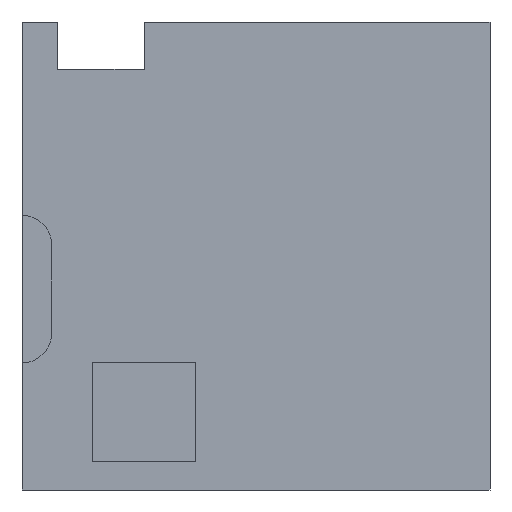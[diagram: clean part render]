
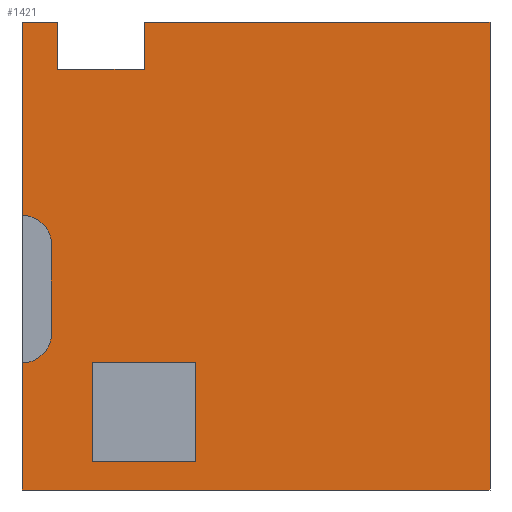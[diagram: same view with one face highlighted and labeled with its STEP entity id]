
A CAD part, front view. The second image highlights one B-rep face of the part: STEP entity #1421.
In plain terms, the highlighted planar face has unit normal (0, -1, 0).
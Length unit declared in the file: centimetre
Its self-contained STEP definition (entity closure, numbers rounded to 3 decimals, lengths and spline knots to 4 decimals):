
#26 = LINE ( 'NONE', #1070, #866 ) ;
#29 = VECTOR ( 'NONE', #1212, 100. ) ;
#57 = CARTESIAN_POINT ( 'NONE',  ( 75.865, 0., 1000. ) ) ;
#77 = VERTEX_POINT ( 'NONE', #717 ) ;
#101 = ORIENTED_EDGE ( 'NONE', *, *, #1707, .T. ) ;
#112 = ORIENTED_EDGE ( 'NONE', *, *, #857, .T. ) ;
#131 = VECTOR ( 'NONE', #1090, 100. ) ;
#143 = ORIENTED_EDGE ( 'NONE', *, *, #628, .T. ) ;
#152 = CARTESIAN_POINT ( 'NONE',  ( 0., 0., 1000. ) ) ;
#171 = CARTESIAN_POINT ( 'NONE',  ( 0., 0., 1000. ) ) ;
#177 = DIRECTION ( 'NONE',  ( 1., 0., 0. ) ) ;
#178 = LINE ( 'NONE', #571, #131 ) ;
#179 = VECTOR ( 'NONE', #267, 100. ) ;
#197 = LINE ( 'NONE', #171, #29 ) ;
#203 = CARTESIAN_POINT ( 'NONE',  ( 261.2264, 0., 899.5094 ) ) ;
#225 = CARTESIAN_POINT ( 'NONE',  ( 149.7407, 0., 60.0184 ) ) ;
#235 = VERTEX_POINT ( 'NONE', #1710 ) ;
#249 = VECTOR ( 'NONE', #1297, 100. ) ;
#259 = CIRCLE ( 'NONE', #1171, 62.9601 ) ;
#267 = DIRECTION ( 'NONE',  ( 0., 0., -1. ) ) ;
#270 = CARTESIAN_POINT ( 'NONE',  ( 62.9601, 0., 524.1141 ) ) ;
#274 = ORIENTED_EDGE ( 'NONE', *, *, #1354, .F. ) ;
#276 = VECTOR ( 'NONE', #1480, 100. ) ;
#283 = ORIENTED_EDGE ( 'NONE', *, *, #939, .T. ) ;
#291 = CARTESIAN_POINT ( 'NONE',  ( 1000., 0., 1000. ) ) ;
#295 = LINE ( 'NONE', #304, #1270 ) ;
#304 = CARTESIAN_POINT ( 'NONE',  ( 0., 0., 1000. ) ) ;
#333 = CARTESIAN_POINT ( 'NONE',  ( 0., 0., 587.0742 ) ) ;
#335 = FACE_OUTER_BOUND ( 'NONE', #910, .T. ) ;
#341 = VERTEX_POINT ( 'NONE', #291 ) ;
#359 = VECTOR ( 'NONE', #1572, 100. ) ;
#367 = CARTESIAN_POINT ( 'NONE',  ( 1000., 0., 0. ) ) ;
#373 = LINE ( 'NONE', #270, #490 ) ;
#414 = VERTEX_POINT ( 'NONE', #367 ) ;
#425 = DIRECTION ( 'NONE',  ( 0., 0., -1. ) ) ;
#434 = ORIENTED_EDGE ( 'NONE', *, *, #1690, .T. ) ;
#439 = DIRECTION ( 'NONE',  ( 0., 0., 1. ) ) ;
#465 = DIRECTION ( 'NONE',  ( 0., 0., 1. ) ) ;
#468 = DIRECTION ( 'NONE',  ( 0., -1., 0. ) ) ;
#490 = VECTOR ( 'NONE', #1332, 100. ) ;
#519 = ORIENTED_EDGE ( 'NONE', *, *, #529, .F. ) ;
#529 = EDGE_CURVE ( 'NONE', #1468, #1130, #891, .T. ) ;
#537 = ORIENTED_EDGE ( 'NONE', *, *, #679, .F. ) ;
#560 = EDGE_CURVE ( 'NONE', #1360, #783, #259, .T. ) ;
#571 = CARTESIAN_POINT ( 'NONE',  ( 0., 0., 1000. ) ) ;
#572 = CARTESIAN_POINT ( 'NONE',  ( 149.7407, 0., 60.0184 ) ) ;
#576 = ORIENTED_EDGE ( 'NONE', *, *, #560, .T. ) ;
#581 = CARTESIAN_POINT ( 'NONE',  ( 62.9601, 0., 334.5634 ) ) ;
#584 = EDGE_CURVE ( 'NONE', #1494, #414, #699, .T. ) ;
#588 = AXIS2_PLACEMENT_3D ( 'NONE', #728, #1263, #439 ) ;
#597 = DIRECTION ( 'NONE',  ( 0., 0., 1. ) ) ;
#628 = EDGE_CURVE ( 'NONE', #783, #1494, #295, .T. ) ;
#652 = VERTEX_POINT ( 'NONE', #1061 ) ;
#657 = LINE ( 'NONE', #1574, #764 ) ;
#678 = ORIENTED_EDGE ( 'NONE', *, *, #993, .F. ) ;
#679 = EDGE_CURVE ( 'NONE', #341, #414, #26, .T. ) ;
#690 = EDGE_CURVE ( 'NONE', #652, #341, #178, .T. ) ;
#699 = LINE ( 'NONE', #1200, #1009 ) ;
#717 = CARTESIAN_POINT ( 'NONE',  ( 371.612, 0., 60.0184 ) ) ;
#728 = CARTESIAN_POINT ( 'NONE',  ( 0., 0., 1000. ) ) ;
#745 = DIRECTION ( 'NONE',  ( 0., 0., -1. ) ) ;
#759 = LINE ( 'NONE', #1543, #249 ) ;
#764 = VECTOR ( 'NONE', #1456, 100. ) ;
#783 = VERTEX_POINT ( 'NONE', #1677 ) ;
#801 = EDGE_CURVE ( 'NONE', #1360, #921, #373, .T. ) ;
#827 = DIRECTION ( 'NONE',  ( 0., 0., 1. ) ) ;
#833 = CARTESIAN_POINT ( 'NONE',  ( 0., 0., 524.1141 ) ) ;
#838 = CARTESIAN_POINT ( 'NONE',  ( 62.9601, 0., 524.1141 ) ) ;
#857 = EDGE_CURVE ( 'NONE', #940, #1059, #197, .T. ) ;
#864 = LINE ( 'NONE', #225, #1528 ) ;
#866 = VECTOR ( 'NONE', #425, 100. ) ;
#891 = LINE ( 'NONE', #1043, #359 ) ;
#905 = ORIENTED_EDGE ( 'NONE', *, *, #1470, .F. ) ;
#910 = EDGE_LOOP ( 'NONE', ( #283, #434, #905, #112, #274, #1627, #576, #143, #1213, #537, #1315, #101 ) ) ;
#921 = VERTEX_POINT ( 'NONE', #838 ) ;
#939 = EDGE_CURVE ( 'NONE', #1667, #235, #657, .T. ) ;
#940 = VERTEX_POINT ( 'NONE', #152 ) ;
#945 = CARTESIAN_POINT ( 'NONE',  ( 0., 0., 334.5634 ) ) ;
#961 = LINE ( 'NONE', #1506, #1313 ) ;
#973 = LINE ( 'NONE', #572, #276 ) ;
#993 = EDGE_CURVE ( 'NONE', #1097, #77, #973, .T. ) ;
#1009 = VECTOR ( 'NONE', #1346, 100. ) ;
#1037 = ORIENTED_EDGE ( 'NONE', *, *, #1163, .F. ) ;
#1043 = CARTESIAN_POINT ( 'NONE',  ( 149.7407, 0., 271.8948 ) ) ;
#1059 = VERTEX_POINT ( 'NONE', #333 ) ;
#1061 = CARTESIAN_POINT ( 'NONE',  ( 261.2264, 0., 1000. ) ) ;
#1070 = CARTESIAN_POINT ( 'NONE',  ( 1000., 0., 1000. ) ) ;
#1090 = DIRECTION ( 'NONE',  ( 1., 0., 0. ) ) ;
#1097 = VERTEX_POINT ( 'NONE', #1581 ) ;
#1122 = PLANE ( 'NONE',  #588 ) ;
#1130 = VERTEX_POINT ( 'NONE', #1287 ) ;
#1163 = EDGE_CURVE ( 'NONE', #77, #1468, #759, .T. ) ;
#1164 = VECTOR ( 'NONE', #465, 100. ) ;
#1171 = AXIS2_PLACEMENT_3D ( 'NONE', #945, #1338, #827 ) ;
#1173 = ORIENTED_EDGE ( 'NONE', *, *, #1666, .F. ) ;
#1200 = CARTESIAN_POINT ( 'NONE',  ( 0., 0., 0. ) ) ;
#1212 = DIRECTION ( 'NONE',  ( 0., 0., -1. ) ) ;
#1213 = ORIENTED_EDGE ( 'NONE', *, *, #584, .T. ) ;
#1232 = AXIS2_PLACEMENT_3D ( 'NONE', #833, #468, #597 ) ;
#1263 = DIRECTION ( 'NONE',  ( 0., 1., 0. ) ) ;
#1266 = CARTESIAN_POINT ( 'NONE',  ( 371.612, 0., 271.8948 ) ) ;
#1270 = VECTOR ( 'NONE', #1622, 100. ) ;
#1287 = CARTESIAN_POINT ( 'NONE',  ( 149.7407, 0., 271.8948 ) ) ;
#1297 = DIRECTION ( 'NONE',  ( 0., 0., 1. ) ) ;
#1313 = VECTOR ( 'NONE', #177, 100. ) ;
#1315 = ORIENTED_EDGE ( 'NONE', *, *, #690, .F. ) ;
#1332 = DIRECTION ( 'NONE',  ( 0., 0., 1. ) ) ;
#1338 = DIRECTION ( 'NONE',  ( 0., 1., 0. ) ) ;
#1346 = DIRECTION ( 'NONE',  ( 1., 0., 0. ) ) ;
#1353 = VERTEX_POINT ( 'NONE', #57 ) ;
#1354 = EDGE_CURVE ( 'NONE', #921, #1059, #1401, .T. ) ;
#1360 = VERTEX_POINT ( 'NONE', #581 ) ;
#1401 = CIRCLE ( 'NONE', #1232, 62.9601 ) ;
#1407 = CARTESIAN_POINT ( 'NONE',  ( 261.2264, 0., 899.5094 ) ) ;
#1421 = ADVANCED_FACE ( 'NONE', ( #1517, #335 ), #1122, .F. ) ;
#1456 = DIRECTION ( 'NONE',  ( -1., 0., 0. ) ) ;
#1468 = VERTEX_POINT ( 'NONE', #1266 ) ;
#1470 = EDGE_CURVE ( 'NONE', #940, #1353, #961, .T. ) ;
#1480 = DIRECTION ( 'NONE',  ( 1., 0., 0. ) ) ;
#1482 = EDGE_LOOP ( 'NONE', ( #678, #1173, #519, #1037 ) ) ;
#1494 = VERTEX_POINT ( 'NONE', #1644 ) ;
#1506 = CARTESIAN_POINT ( 'NONE',  ( 0., 0., 1000. ) ) ;
#1517 = FACE_BOUND ( 'NONE', #1482, .T. ) ;
#1528 = VECTOR ( 'NONE', #745, 100. ) ;
#1530 = LINE ( 'NONE', #1407, #179 ) ;
#1543 = CARTESIAN_POINT ( 'NONE',  ( 371.612, 0., 60.0184 ) ) ;
#1572 = DIRECTION ( 'NONE',  ( -1., 0., 0. ) ) ;
#1574 = CARTESIAN_POINT ( 'NONE',  ( 75.865, 0., 899.5094 ) ) ;
#1581 = CARTESIAN_POINT ( 'NONE',  ( 149.7407, 0., 60.0184 ) ) ;
#1622 = DIRECTION ( 'NONE',  ( 0., 0., -1. ) ) ;
#1627 = ORIENTED_EDGE ( 'NONE', *, *, #801, .F. ) ;
#1644 = CARTESIAN_POINT ( 'NONE',  ( 0., 0., 0. ) ) ;
#1654 = CARTESIAN_POINT ( 'NONE',  ( 75.865, 0., 899.5094 ) ) ;
#1666 = EDGE_CURVE ( 'NONE', #1130, #1097, #864, .T. ) ;
#1667 = VERTEX_POINT ( 'NONE', #203 ) ;
#1677 = CARTESIAN_POINT ( 'NONE',  ( 0., 0., 271.6033 ) ) ;
#1679 = LINE ( 'NONE', #1654, #1164 ) ;
#1690 = EDGE_CURVE ( 'NONE', #235, #1353, #1679, .T. ) ;
#1707 = EDGE_CURVE ( 'NONE', #652, #1667, #1530, .T. ) ;
#1710 = CARTESIAN_POINT ( 'NONE',  ( 75.865, 0., 899.5094 ) ) ;
